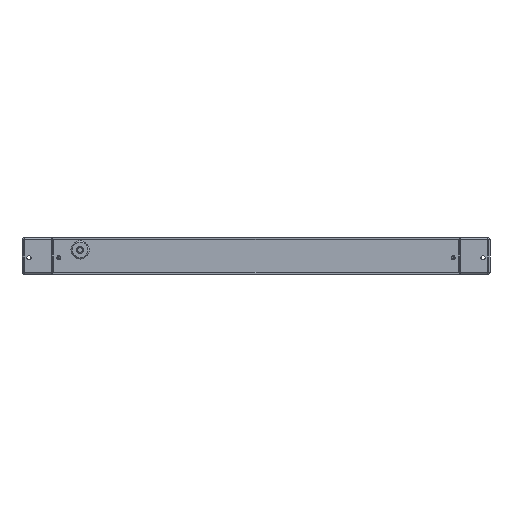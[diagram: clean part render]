
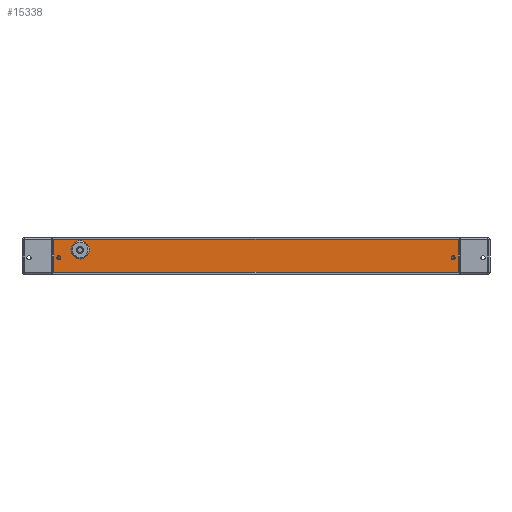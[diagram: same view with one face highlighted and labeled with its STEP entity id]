
A CAD part, front view. The second image highlights one B-rep face of the part: STEP entity #15338.
In plain terms, the highlighted planar face has unit normal (0, -1, 0).
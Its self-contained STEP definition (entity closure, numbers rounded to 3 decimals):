
#15327 = ORIENTED_EDGE ( 'NONE', *, *, #15550, .F. ) ;
#15328 = EDGE_CURVE ( 'NONE', #15355, #15456, #28405, .T. ) ;
#15329 = ORIENTED_EDGE ( 'NONE', *, *, #15340, .F. ) ;
#15335 = VERTEX_POINT ( 'NONE', #28210 ) ;
#15336 = VERTEX_POINT ( 'NONE', #28209 ) ;
#15337 = ORIENTED_EDGE ( 'NONE', *, *, #15328, .F. ) ;
#15338 = ADVANCED_FACE ( 'NONE', ( #28221, #28406, #28228, #28215 ), #28208, .T. ) ;
#15339 = EDGE_LOOP ( 'NONE', ( #15329, #15549, #15327, #15553 ) ) ;
#15340 = EDGE_CURVE ( 'NONE', #15335, #15336, #28324, .T. ) ;
#15345 = ORIENTED_EDGE ( 'NONE', *, *, #15529, .F. ) ;
#15351 = VERTEX_POINT ( 'NONE', #28308 ) ;
#15353 = VERTEX_POINT ( 'NONE', #28295 ) ;
#15354 = VERTEX_POINT ( 'NONE', #28305 ) ;
#15355 = VERTEX_POINT ( 'NONE', #28293 ) ;
#15456 = VERTEX_POINT ( 'NONE', #28393 ) ;
#15463 = EDGE_CURVE ( 'NONE', #15353, #15354, #28287, .T. ) ;
#15464 = VERTEX_POINT ( 'NONE', #28395 ) ;
#15467 = VERTEX_POINT ( 'NONE', #27921 ) ;
#15470 = EDGE_CURVE ( 'NONE', #15464, #15467, #28289, .T. ) ;
#15527 = ORIENTED_EDGE ( 'NONE', *, *, #15765, .F. ) ;
#15529 = EDGE_CURVE ( 'NONE', #15456, #15355, #28419, .T. ) ;
#15537 = EDGE_LOOP ( 'NONE', ( #15539, #15759 ) ) ;
#15538 = EDGE_LOOP ( 'NONE', ( #15768, #15527 ) ) ;
#15539 = ORIENTED_EDGE ( 'NONE', *, *, #15766, .F. ) ;
#15546 = VERTEX_POINT ( 'NONE', #28427 ) ;
#15547 = EDGE_CURVE ( 'NONE', #15351, #15335, #28418, .T. ) ;
#15549 = ORIENTED_EDGE ( 'NONE', *, *, #15547, .F. ) ;
#15550 = EDGE_CURVE ( 'NONE', #15546, #15351, #28439, .T. ) ;
#15551 = EDGE_LOOP ( 'NONE', ( #15337, #15345 ) ) ;
#15552 = EDGE_CURVE ( 'NONE', #15336, #15546, #28496, .T. ) ;
#15553 = ORIENTED_EDGE ( 'NONE', *, *, #15552, .F. ) ;
#15759 = ORIENTED_EDGE ( 'NONE', *, *, #15470, .F. ) ;
#15765 = EDGE_CURVE ( 'NONE', #15354, #15353, #28922, .T. ) ;
#15766 = EDGE_CURVE ( 'NONE', #15467, #15464, #29032, .T. ) ;
#15768 = ORIENTED_EDGE ( 'NONE', *, *, #15463, .F. ) ;
#27921 = CARTESIAN_POINT ( 'NONE',  ( -290., -2., 25. ) ) ;
#28208 = PLANE ( 'NONE',  #28214 ) ;
#28209 = CARTESIAN_POINT ( 'NONE',  ( 333.5, -2., 26.5 ) ) ;
#28210 = CARTESIAN_POINT ( 'NONE',  ( -333.5, -2., 26.5 ) ) ;
#28214 = AXIS2_PLACEMENT_3D ( 'NONE', #28216, #28226, #28326 ) ;
#28215 = FACE_BOUND ( 'NONE', #15537, .T. ) ;
#28216 = CARTESIAN_POINT ( 'NONE',  ( 0., -2., 0. ) ) ;
#28221 = FACE_OUTER_BOUND ( 'NONE', #15339, .T. ) ;
#28222 = DIRECTION ( 'NONE',  ( 0., 0., -1. ) ) ;
#28223 = DIRECTION ( 'NONE',  ( 0., -1., 0. ) ) ;
#28224 = CARTESIAN_POINT ( 'NONE',  ( -325., -2., -3. ) ) ;
#28226 = DIRECTION ( 'NONE',  ( 0., -1., 0. ) ) ;
#28228 = FACE_BOUND ( 'NONE', #15538, .T. ) ;
#28281 = DIRECTION ( 'NONE',  ( 0., -1., 0. ) ) ;
#28283 = DIRECTION ( 'NONE',  ( 0., 0., -1. ) ) ;
#28284 = DIRECTION ( 'NONE',  ( 0., 0., -1. ) ) ;
#28285 = DIRECTION ( 'NONE',  ( 0., -1., 0. ) ) ;
#28286 = CARTESIAN_POINT ( 'NONE',  ( 325., -2., -3. ) ) ;
#28287 = CIRCLE ( 'NONE', #28288, 3.5 ) ;
#28288 = AXIS2_PLACEMENT_3D ( 'NONE', #28286, #28285, #28284 ) ;
#28289 = CIRCLE ( 'NONE', #28389, 15. ) ;
#28293 = CARTESIAN_POINT ( 'NONE',  ( -325., -2., 0.5 ) ) ;
#28295 = CARTESIAN_POINT ( 'NONE',  ( 325., -2., 0.5 ) ) ;
#28305 = CARTESIAN_POINT ( 'NONE',  ( 325., -2., -6.5 ) ) ;
#28308 = CARTESIAN_POINT ( 'NONE',  ( -333.5, -2., -26.5 ) ) ;
#28321 = DIRECTION ( 'NONE',  ( 1., 0., 0. ) ) ;
#28322 = VECTOR ( 'NONE', #28321, 1000. ) ;
#28323 = CARTESIAN_POINT ( 'NONE',  ( 0., -2., 26.5 ) ) ;
#28324 = LINE ( 'NONE', #28323, #28322 ) ;
#28326 = DIRECTION ( 'NONE',  ( 0., 0., -1. ) ) ;
#28382 = CARTESIAN_POINT ( 'NONE',  ( -290., -2., 10. ) ) ;
#28389 = AXIS2_PLACEMENT_3D ( 'NONE', #28382, #28281, #28283 ) ;
#28393 = CARTESIAN_POINT ( 'NONE',  ( -325., -2., -6.5 ) ) ;
#28395 = CARTESIAN_POINT ( 'NONE',  ( -290., -2., -5. ) ) ;
#28405 = CIRCLE ( 'NONE', #28407, 3.5 ) ;
#28406 = FACE_BOUND ( 'NONE', #15551, .T. ) ;
#28407 = AXIS2_PLACEMENT_3D ( 'NONE', #28224, #28223, #28222 ) ;
#28416 = CARTESIAN_POINT ( 'NONE',  ( -325., -2., -3. ) ) ;
#28418 = LINE ( 'NONE', #28426, #28425 ) ;
#28419 = CIRCLE ( 'NONE', #28520, 3.5 ) ;
#28424 = DIRECTION ( 'NONE',  ( 0., 0., 1. ) ) ;
#28425 = VECTOR ( 'NONE', #28424, 1000. ) ;
#28426 = CARTESIAN_POINT ( 'NONE',  ( -333.5, -2., 0. ) ) ;
#28427 = CARTESIAN_POINT ( 'NONE',  ( 333.5, -2., -26.5 ) ) ;
#28439 = LINE ( 'NONE', #28500, #28499 ) ;
#28452 = DIRECTION ( 'NONE',  ( 0., 0., -1. ) ) ;
#28453 = DIRECTION ( 'NONE',  ( 0., -1., 0. ) ) ;
#28493 = DIRECTION ( 'NONE',  ( 0., 0., -1. ) ) ;
#28494 = VECTOR ( 'NONE', #28493, 1000. ) ;
#28495 = CARTESIAN_POINT ( 'NONE',  ( 333.5, -2., 0. ) ) ;
#28496 = LINE ( 'NONE', #28495, #28494 ) ;
#28498 = DIRECTION ( 'NONE',  ( -1., 0., 0. ) ) ;
#28499 = VECTOR ( 'NONE', #28498, 1000. ) ;
#28500 = CARTESIAN_POINT ( 'NONE',  ( 0., -2., -26.5 ) ) ;
#28520 = AXIS2_PLACEMENT_3D ( 'NONE', #28416, #28453, #28452 ) ;
#28898 = CARTESIAN_POINT ( 'NONE',  ( -290., -2., 10. ) ) ;
#28922 = CIRCLE ( 'NONE', #28946, 3.5 ) ;
#28946 = AXIS2_PLACEMENT_3D ( 'NONE', #29035, #29034, #29033 ) ;
#29030 = DIRECTION ( 'NONE',  ( 0., 0., -1. ) ) ;
#29031 = DIRECTION ( 'NONE',  ( 0., -1., 0. ) ) ;
#29032 = CIRCLE ( 'NONE', #29036, 15. ) ;
#29033 = DIRECTION ( 'NONE',  ( 0., 0., -1. ) ) ;
#29034 = DIRECTION ( 'NONE',  ( 0., -1., 0. ) ) ;
#29035 = CARTESIAN_POINT ( 'NONE',  ( 325., -2., -3. ) ) ;
#29036 = AXIS2_PLACEMENT_3D ( 'NONE', #28898, #29031, #29030 ) ;
